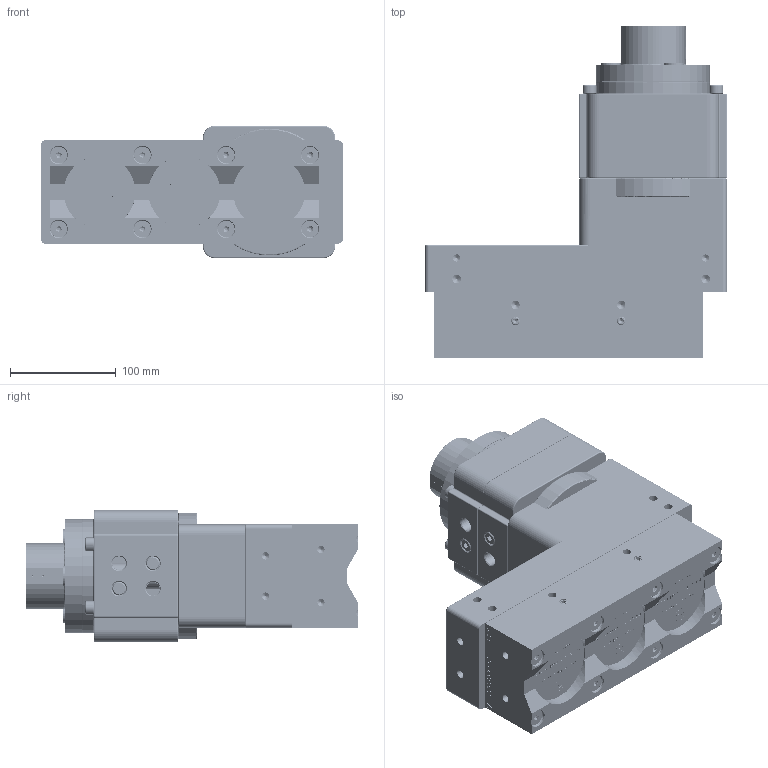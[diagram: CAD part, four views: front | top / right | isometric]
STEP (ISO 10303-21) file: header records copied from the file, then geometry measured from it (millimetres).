
FILE_DESCRIPTION (( 'STEP AP203' ), '1' );
FILE_NAME ('81401717_CFM.STEP', '2026-02-20T20:19:17', ( '' ), ( '' ), 'SwSTEP 2.0', 'SolidWorks 2024', '' );
FILE_SCHEMA (( 'CONFIG_CONTROL_DESIGN' ));
Products named in the file (1): 81401717_CFM
Bounding box: 285.83 x 314 x 125 mm (x, y, z)
Volume: 5000803.5 mm3; surface area: 630333.8 mm2
Topology: 63 solids, 63 shells, 7800 faces, 19795 edges, 12523 vertices
Faces by surface type: plane 2670, cylinder 2328, bspline 1582, cone 1098, torus 108, sphere 14
Entity records: 370913 total; most frequent: CARTESIAN_POINT 201007, ORIENTED_EDGE 39356, DIRECTION 28670, EDGE_CURVE 19678, VERTEX_POINT 12516, VECTOR 10432, LINE 10432, AXIS2_PLACEMENT_3D 9119
